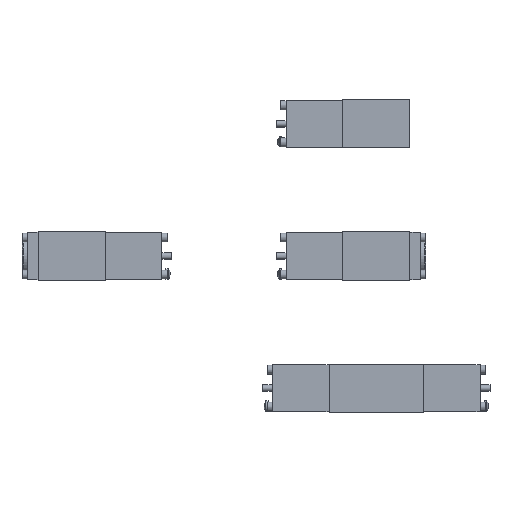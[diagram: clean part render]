
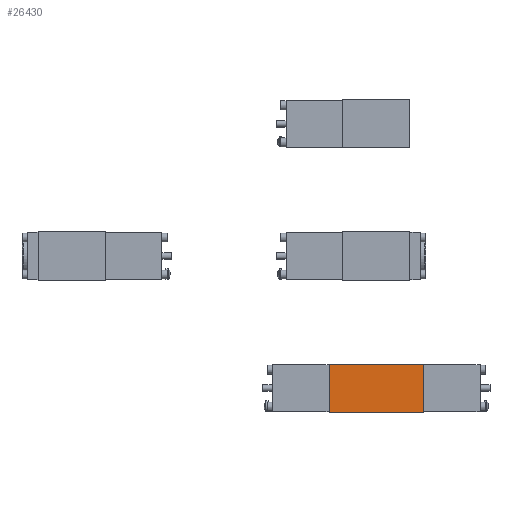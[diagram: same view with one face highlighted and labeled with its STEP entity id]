
A CAD part, front view. The second image highlights one B-rep face of the part: STEP entity #26430.
In plain terms, the highlighted planar face has unit normal (0, -1, 0).
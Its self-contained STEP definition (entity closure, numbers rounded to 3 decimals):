
#26430=ADVANCED_FACE('', (#26440), #26450, .T.);
#77110=AXIS2_PLACEMENT_3D('Ax2Pl3d', #77120, #77130, #77140);
#110320=CARTESIAN_POINT('', (90.,0.,0.));
#110370=CARTESIAN_POINT('', (90.,0.,46.));
#110380=CARTESIAN_POINT('', (90.,0.,46.));
#110490=CARTESIAN_POINT('', (0.,0.,46.));
#110500=CARTESIAN_POINT('', (0.,0.,0.));
#110510=CARTESIAN_POINT('', (0.,0.,46.));
#110650=CARTESIAN_POINT('', (90.,0.,0.));
#110790=CARTESIAN_POINT('', (90.,0.,46.));
#77120=CARTESIAN_POINT('HicPkt', (0.,0.,
0.));
#125360=DIRECTION('', (0.,0.,1.));
#125370=DIRECTION('', (0.,0.,1.));
#125410=DIRECTION('', (1.,0.,0.));
#125430=DIRECTION('', (1.,0.,0.));
#77130=DIRECTION('Axis', (0.,-1.,
0.));
#77140=DIRECTION('RefDirection', (0.,
0.,-1.));
#154640=EDGE_CURVE('', #154550, #154620, #154650, .T.);
#154860=EDGE_CURVE('', #154870, #154880, #154890, .T.);
#155140=EDGE_CURVE('', #154870, #154550, #155150, .T.);
#155420=EDGE_CURVE('', #154880, #154620, #155430, .T.);
#191630=EDGE_LOOP('Edge_loop', (#191640,#191650,#191660,#191670));
#26440=FACE_OUTER_BOUND('Face_outer_bound', #191630, .T.);
#154650=LINE('Line', #110380, #203380);
#154890=LINE('Line', #110490, #203390);
#155150=LINE('Line', #110650, #203430);
#155430=LINE('Line', #110790, #203450);
#191640=ORIENTED_EDGE('', *, *, #155140, .T.);
#191650=ORIENTED_EDGE('', *, *, #154640, .T.);
#191660=ORIENTED_EDGE('', *, *, #155420, .F.);
#191670=ORIENTED_EDGE('', *, *, #154860, .F.);
#26450=PLANE('Plane', #77110);
#203380=VECTOR('', #125360, 46.);
#203390=VECTOR('', #125370, 46.);
#203430=VECTOR('', #125410, 90.);
#203450=VECTOR('', #125430, 90.);
#154550=VERTEX_POINT('', #110320);
#154620=VERTEX_POINT('', #110370);
#154870=VERTEX_POINT('', #110500);
#154880=VERTEX_POINT('', #110510);
